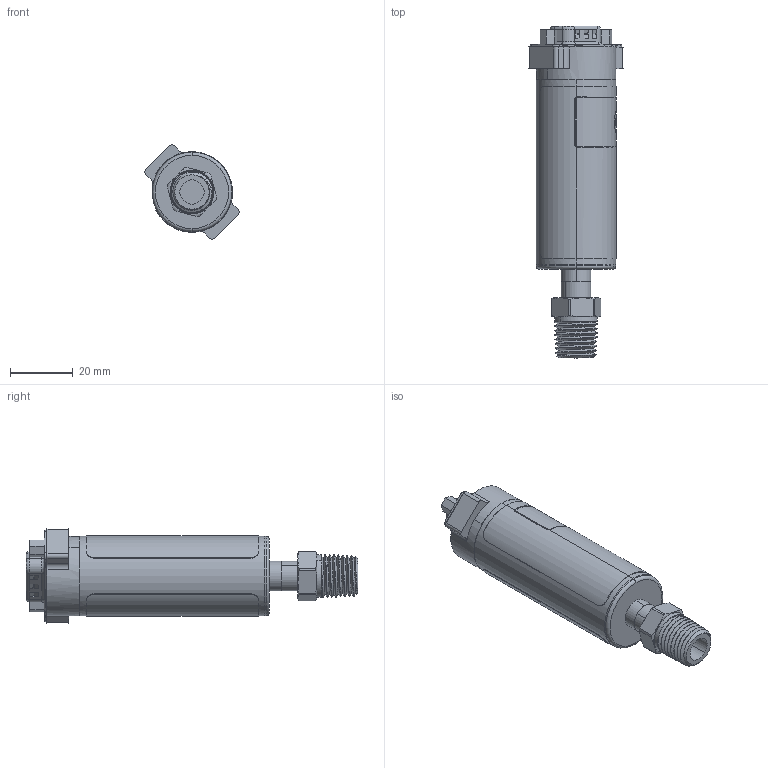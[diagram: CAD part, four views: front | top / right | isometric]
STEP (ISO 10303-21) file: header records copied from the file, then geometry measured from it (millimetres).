
FILE_DESCRIPTION (( 'STEP AP203' ), '1' );
FILE_NAME ('GSD-XXXXXX-K-XXX-NT.STEP', '2025-06-25T15:48:52', ( '' ), ( '' ), 'SwSTEP 2.0', 'SolidWorks 2023', '' );
FILE_SCHEMA (( 'CONFIG_CONTROL_DESIGN' ));
Length unit declared in the file: inch
Products named in the file (4): 315Z103; GSx Body_Integrated Connector; GSD-XXXXXX-K-XXX-NT; GS K
Assembly tree (3 placements, depth 2):
  GSD-XXXXXX-K-XXX-NT
    GSx Body_Integrated Connector
    GS K
    315Z103
Bounding box: 30.22 x 106.08 x 30.22 mm (x, y, z)
Volume: 15036.6 mm3; surface area: 16442.1 mm2
Topology: 4 solids, 8 shells, 567 faces, 1483 edges, 966 vertices
Faces by surface type: plane 209, cylinder 190, bspline 99, cone 57, torus 12
Entity records: 27666 total; most frequent: CARTESIAN_POINT 13983, ORIENTED_EDGE 2958, DIRECTION 2549, EDGE_CURVE 1479, AXIS2_PLACEMENT_3D 979, VERTEX_POINT 966, EDGE_LOOP 623, LINE 591
